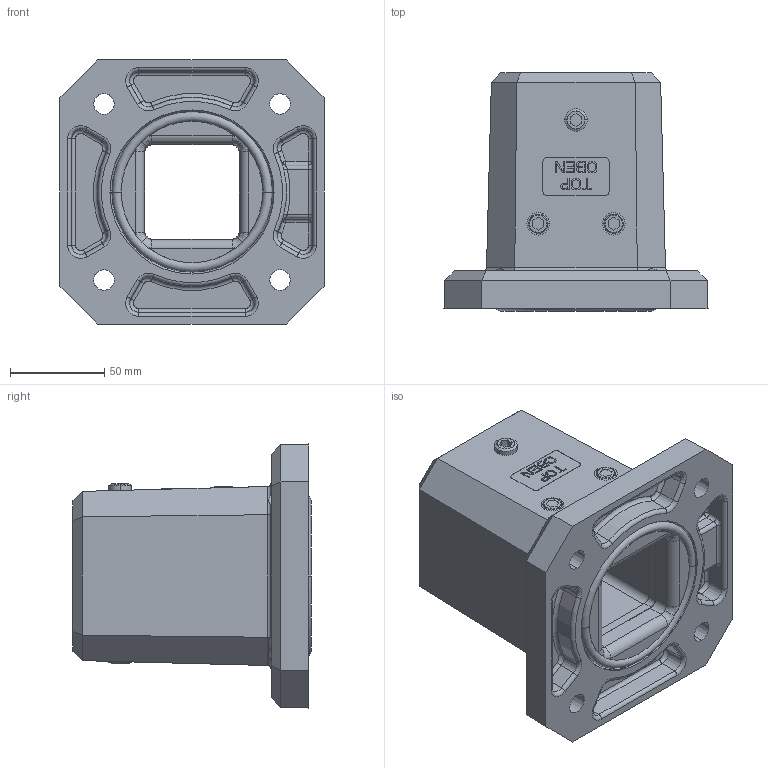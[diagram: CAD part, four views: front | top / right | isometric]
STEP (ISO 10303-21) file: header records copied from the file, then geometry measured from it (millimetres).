
FILE_DESCRIPTION((''),'2;1');
FILE_NAME('1016465000_ASM','2025-04-17T09:47:22',('Stephanie.Hoppe'),(''),'CREO PARAMETRIC BY PTC INC, 2022124','CREO PARAMETRIC BY PTC INC, 2022124','');
FILE_SCHEMA(('AUTOMOTIVE_DESIGN { 1 0 10303 214 1 1 1 1 }'));
Length unit declared in the file: millimetre
Products named in the file (7): 9324058000_AF0; 9620074000_ASM; 9263034000; 9231015000; 9231536000; 9258075000; 1016465000_ASM
Assembly tree (11 placements, depth 3):
  1016465000_ASM
    9620074000_ASM
      9324058000_AF0
    9263034000  x6
    9231015000
    9231536000
    9258075000
Bounding box: 140 x 126.2 x 140 mm (x, y, z)
Volume: 699698.2 mm3; surface area: 138409.7 mm2
Topology: 10 solids, 22 shells, 671 faces, 1685 edges, 1062 vertices
Faces by surface type: plane 396, cylinder 120, cone 85, torus 48, bspline 18, sphere 4
Entity records: 27111 total; most frequent: CARTESIAN_POINT 4185, DIRECTION 2871, ORIENTED_EDGE 2622, PRESENTATION_STYLE_ASSIGNMENT 1566, STYLED_ITEM 1378, CURVE_STYLE 1372, EDGE_CURVE 1313, VECTOR 989
